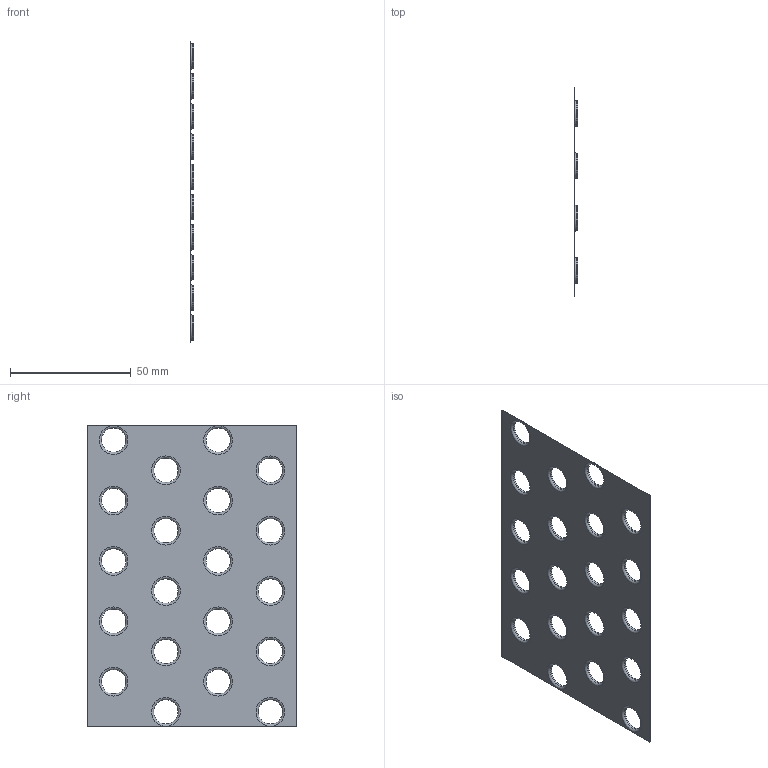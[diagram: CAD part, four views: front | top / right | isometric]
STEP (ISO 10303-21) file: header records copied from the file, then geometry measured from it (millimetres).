
FILE_DESCRIPTION( ( 'Unknown' ), '1' );
FILE_NAME( '//SERVER2K3/Dati/Documenti/TEC/SolidEdge/solidedge/Template/Pacchi Alettati/Geometrie formato STEP/Pacco Standard 25x22.stp', 'Unknown', ( 'Unknown' ), ( 'Unknown' ), 'PSStep 15.0.49', 'Unknown', ' ' );
FILE_SCHEMA( ( 'AUTOMOTIVE_DESIGN { 1 0 10303 214 1 1 1 1 }' ) );
Length unit declared in the file: millimetre
Products named in the file (1): 1
Bounding box: 1.6 x 86.6 x 125 mm (x, y, z)
Volume: 995.7 mm3; surface area: 20019.2 mm2
Topology: 1 solids, 1 shells, 106 faces, 252 edges, 168 vertices
Faces by surface type: cylinder 40, torus 40, plane 26
Full cylindrical faces by diameter (mm): 10.1 x20, 10.3 x20
Entity records: 3300 total; most frequent: DIRECTION 466, CARTESIAN_POINT 367, ORIENTED_EDGE 264, EDGE_LOOP 246, AXIS2_PLACEMENT_3D 227, FACE_OUTER_BOUND 186, EDGE_CURVE 132, VERTEX_POINT 128
